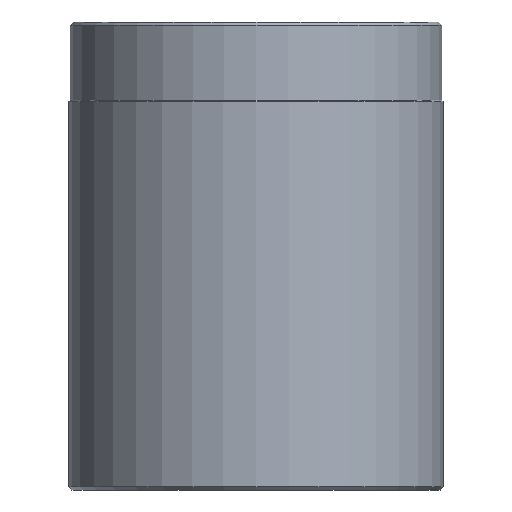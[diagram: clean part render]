
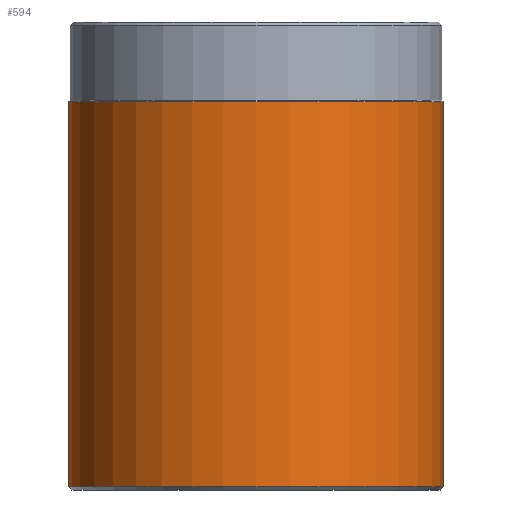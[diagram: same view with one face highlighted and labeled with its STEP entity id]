
A CAD part, front view. The second image highlights one B-rep face of the part: STEP entity #594.
In plain terms, the highlighted cylindrical face has radius 60 mm (diameter 120 mm), a partial arc.
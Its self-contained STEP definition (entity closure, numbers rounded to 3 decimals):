
#125=VERTEX_POINT(' ',#126);
#126=CARTESIAN_POINT('',(-60.,0.,1.));
#127=VERTEX_POINT(' ',#128);
#128=CARTESIAN_POINT('',(60.,0.,1.));
#129=VERTEX_POINT(' ',#130);
#130=CARTESIAN_POINT('',(-60.,0.,124.5));
#131=VERTEX_POINT(' ',#132);
#132=CARTESIAN_POINT('',(60.,0.,124.5));
#321=CIRCLE('',#322,60.);
#322=AXIS2_PLACEMENT_3D('',#323,#324,#325);
#323=CARTESIAN_POINT('',(0.,0.,1.));
#324=DIRECTION('',(0.,0.,1.));
#325=DIRECTION('',(0.,1.,0.));
#326=EDGE_CURVE(' ',#125,#127,#321,.T.);
#327=LINE('',#328,#329);
#328=CARTESIAN_POINT('',(-60.,0.,1.));
#329=VECTOR('',#330,1.);
#330=DIRECTION('',(0.,0.,1.));
#331=EDGE_CURVE(' ',#125,#129,#327,.T.);
#338=LINE('',#339,#340);
#339=CARTESIAN_POINT('',(60.,0.,1.));
#340=VECTOR('',#341,1.);
#341=DIRECTION('',(0.,0.,1.));
#342=EDGE_CURVE(' ',#127,#131,#338,.T.);
#343=CIRCLE('',#344,60.);
#344=AXIS2_PLACEMENT_3D('',#345,#346,#347);
#345=CARTESIAN_POINT('',(0.,0.,124.5));
#346=DIRECTION('',(0.,0.,1.));
#347=DIRECTION('',(0.,1.,0.));
#348=EDGE_CURVE(' ',#129,#131,#343,.T.);
#583=ORIENTED_EDGE('',*,*,#331,.F.);
#584=ORIENTED_EDGE('',*,*,#326,.T.);
#585=ORIENTED_EDGE('',*,*,#342,.T.);
#586=ORIENTED_EDGE('',*,*,#348,.F.);
#587=EDGE_LOOP('',(#583,#584,#585,#586));
#588=FACE_OUTER_BOUND('',#587,.T.);
#589=CYLINDRICAL_SURFACE('',#590,60.);
#590=AXIS2_PLACEMENT_3D('',#591,#592,#593);
#591=CARTESIAN_POINT('',(0.,0.,1.));
#592=DIRECTION('',(0.,0.,1.));
#593=DIRECTION('',(0.,1.,0.));
#594=ADVANCED_FACE('',(#588),#589,.T.);
